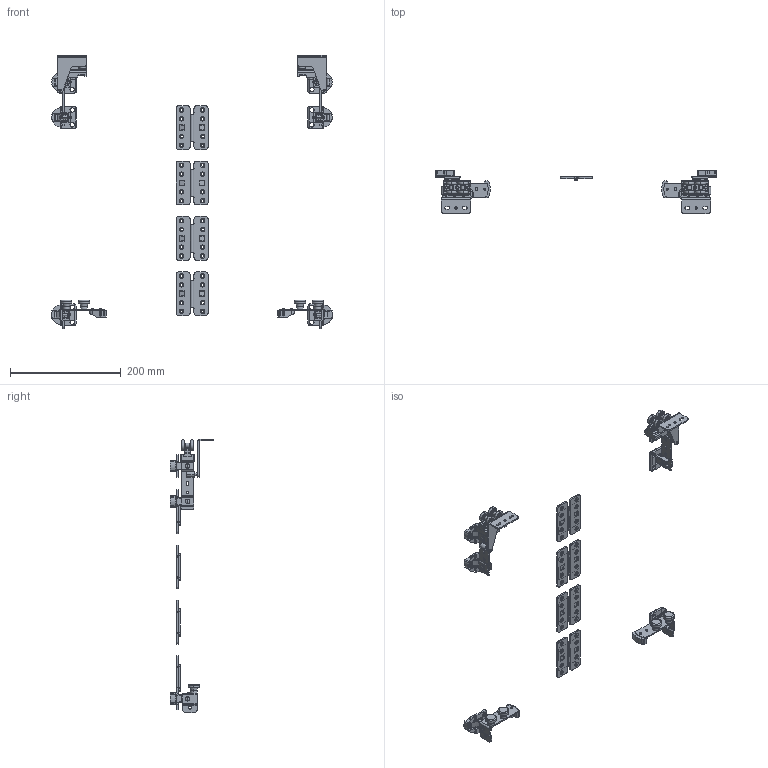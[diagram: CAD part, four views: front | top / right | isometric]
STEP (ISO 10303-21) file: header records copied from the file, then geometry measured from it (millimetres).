
FILE_DESCRIPTION( ( '' ), '1' );
FILE_NAME( 'D:/temp/hettich_stp/hettich/4_folding_sliding/4.4_folding_door/20-25kg_wing_77/25kg_w_77/70986.stp', '2013-02-26T10:22:37', ( '' ), ( '' ), ' ', ' ', ' ' );
FILE_SCHEMA( ( 'automotive_design' ) );
Length unit declared in the file: millimetre
Products named in the file (20): 1; 2; 3; 4; 5; 6; 7; 8; 9; 10; 11; 12; 13; 14; 15; 16; 17; 18; 19; 20
Bounding box: 507.88 x 77.8 x 493.5 mm (x, y, z)
Volume: 206177 mm3; surface area: 183734.1 mm2
Topology: 20 solids, 22 shells, 3304 faces, 9478 edges, 6172 vertices
Faces by surface type: plane 1892, cylinder 1124, torus 180, cone 100, sphere 8
Entity records: 214473 total; most frequent: CARTESIAN_POINT 19426, DIRECTION 19178, STYLED_ITEM 18954, PRESENTATION_STYLE_ASSIGNMENT 18954, COLOUR_RGB 18954, ORIENTED_EDGE 18916, EDGE_CURVE 9458, CURVE_STYLE 9458
